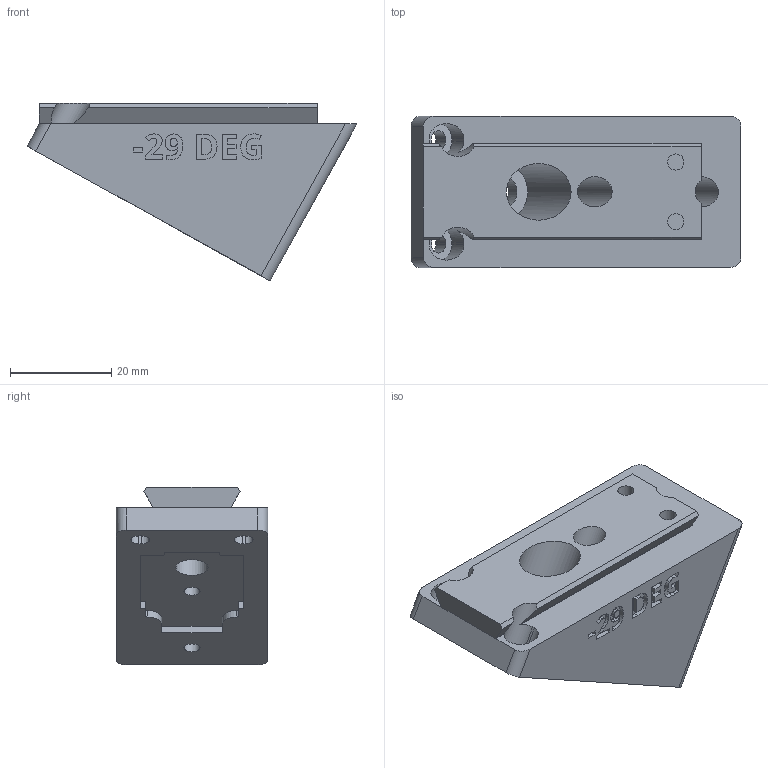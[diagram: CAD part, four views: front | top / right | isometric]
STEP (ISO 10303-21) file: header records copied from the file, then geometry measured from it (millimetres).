
FILE_DESCRIPTION(/* description */ ('STEP AP242 Edition 2','CAx-IF Rec.Pracs.---Representation and Presentation of Product Manufacturing Information (PMI)---4.0---2014-10-13','CAx-IF Rec.Pracs.---3D Tessellated Geometry---0.4---2014-09-14','2;1','CAx-IF Rec.Pracs.---User Defined Attributes---1.5---2016-08-15'),/* implementation_level */ '2;1');
FILE_NAME(/* name */ 'Camera Wedges - CAMERA MOUNTING WEDGE, NEG, -29 DEG',/* time_stamp */ '2026-07-08T20:36:15Z',/* author */ (''),/* organization */ (''),/* preprocessor_version */ 'ST-DEVELOPER v20',/* originating_system */ 'ONSHAPE BY PTC INC, 1.217',/* authorisation */ ' ');
FILE_SCHEMA (('AP242_MANAGED_MODEL_BASED_3D_ENGINEERING_MIM_LF { 1 0 10303 442 3 1 4 }'));
Length unit declared in the file: metre
Products named in the file (1): CAMERA MOUNTING WEDGE, NEG, -29 DEG
Bounding box: 65.31 x 30 x 35.15 mm (x, y, z)
Volume: 32832.2 mm3; surface area: 9834.1 mm2
Topology: 1 solids, 1 shells, 288 faces, 793 edges, 528 vertices
Faces by surface type: plane 144, bspline 86, cylinder 58
Full cylindrical faces by diameter (mm): 3.2 x4, 6 x2, 6.4 x1, 11.2 x1
Entity records: 9429 total; most frequent: CARTESIAN_POINT 2546, ORIENTED_EDGE 1568, DIRECTION 1149, EDGE_CURVE 784, VERTEX_POINT 527, LINE 481, VECTOR 481, AXIS2_PLACEMENT_3D 334
